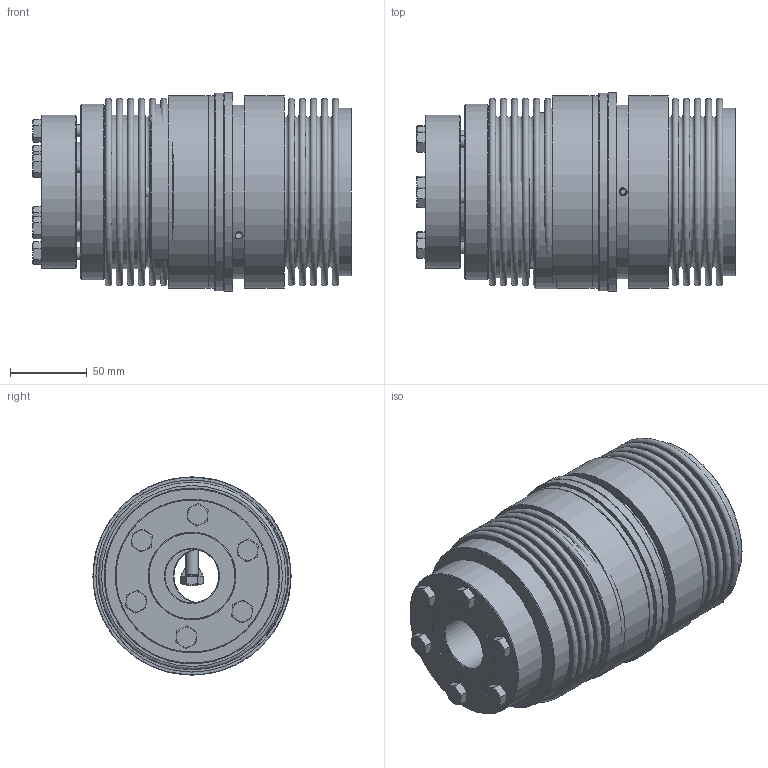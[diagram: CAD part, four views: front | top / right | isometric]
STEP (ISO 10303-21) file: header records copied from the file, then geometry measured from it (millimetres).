
FILE_DESCRIPTION( ( 'Unknown' ), '1' );
FILE_NAME( 'C:/Dokumente und Einstellungen/SKarpstein/Desktop/Korrigierte 3D Modelle/KBK-B-AI/KBK-BAI-500-157.stp', 'Unknown', ( 'Unknown' ), ( 'Unknown' ), 'XStep 1.0', 'Unknown', ' ' );
FILE_SCHEMA( ( 'automotive_design' ) );
Length unit declared in the file: millimetre
Products named in the file (12): Assem1; Assem2; DR500_Standard_0; Hex Screw GradeC_DIN_ISO 4018 - M8 x 40-NN_0; BA500_Standard_0; Stellring 500; Druckring 500; KBK L-I-500 Grundkörper; Konusbuchse 500; din_en_24017_m8x30_1; Flansch BK500; BL500_Standard_2
Bounding box: 207.1 x 129 x 129 mm (x, y, z)
Volume: 2007910.5 mm3; surface area: 713166.6 mm2
Topology: 38 solids, 38 shells, 797 faces, 1657 edges, 1055 vertices
Faces by surface type: plane 349, cone 228, cylinder 165, torus 55
Full cylindrical faces by diameter (mm): 3.242 x6, 5.1 x6, 5.2 x6, 6.647 x18, 6.8 x18, 8 x20, 9 x30, 11.63 x7, 35 x7, 62 x2, 62.6 x2, 65 x4, 65.111 x3, 80 x2, 86 x4, 89 x2, 90 x2, 100 x3, 104.5 x2, 107.7 x4, 108.9 x4, 113 x2, 114 x2, 114.5 x3, 125 x4, 129 x2
Entity records: 6279 total; most frequent: CARTESIAN_POINT 1325, DIRECTION 1042, ORIENTED_EDGE 660, AXIS2_PLACEMENT_3D 493, EDGE_LOOP 466, EDGE_CURVE 330, FACE_OUTER_BOUND 324, VERTEX_POINT 282
